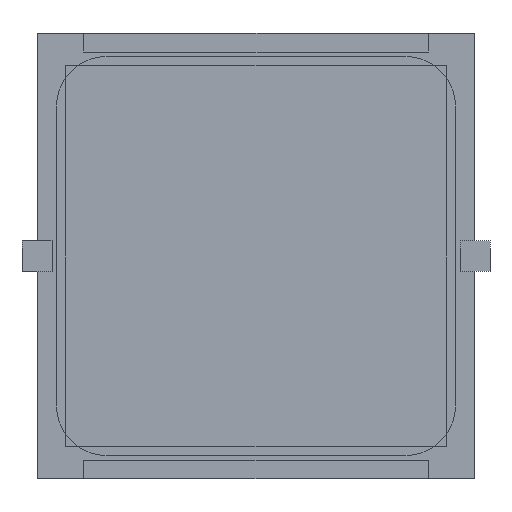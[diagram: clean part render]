
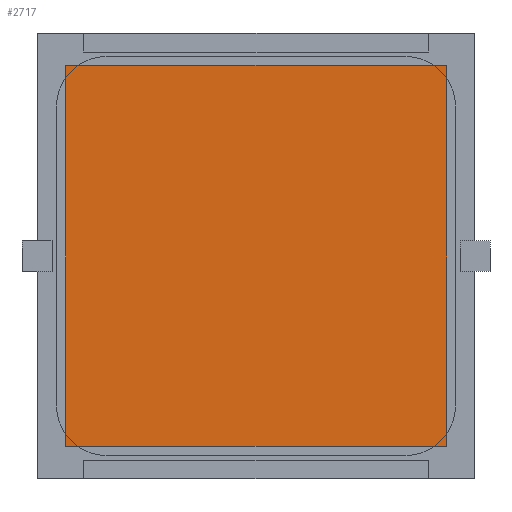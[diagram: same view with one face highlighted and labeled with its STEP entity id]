
A CAD part, front view. The second image highlights one B-rep face of the part: STEP entity #2717.
In plain terms, the highlighted planar face has unit normal (0, -1, 0).
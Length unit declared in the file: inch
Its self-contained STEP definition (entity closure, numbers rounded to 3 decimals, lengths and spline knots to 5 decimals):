
#424 = VERTEX_POINT ( 'NONE', #6770 ) ;
#426 = EDGE_CURVE ( 'NONE', #5803, #6977, #7511, .T. ) ;
#592 = EDGE_CURVE ( 'NONE', #6564, #5803, #3664, .T. ) ;
#839 = ORIENTED_EDGE ( 'NONE', *, *, #592, .F. ) ;
#1013 = ORIENTED_EDGE ( 'NONE', *, *, #3935, .F. ) ;
#1087 = VECTOR ( 'NONE', #2163, 39.37008 ) ;
#1159 = LINE ( 'NONE', #7673, #5840 ) ;
#1469 = CARTESIAN_POINT ( 'NONE',  ( -0.5, -0.005, -0.5 ) ) ;
#2163 = DIRECTION ( 'NONE',  ( 0., 0., -1. ) ) ;
#2283 = CARTESIAN_POINT ( 'NONE',  ( -0.5, -0.005, 0.5 ) ) ;
#2360 = PLANE ( 'NONE',  #3896 ) ;
#2717 = ADVANCED_FACE ( 'NONE', ( #6323 ), #2360, .F. ) ;
#2880 = DIRECTION ( 'NONE',  ( 0., 0., 1. ) ) ;
#3321 = LINE ( 'NONE', #1469, #5720 ) ;
#3562 = EDGE_CURVE ( 'NONE', #424, #6564, #1159, .T. ) ;
#3625 = CARTESIAN_POINT ( 'NONE',  ( -0.5, -0.005, 0.5 ) ) ;
#3664 = LINE ( 'NONE', #3625, #6766 ) ;
#3683 = ORIENTED_EDGE ( 'NONE', *, *, #426, .F. ) ;
#3697 = CARTESIAN_POINT ( 'NONE',  ( 0.5, -0.005, -0.5 ) ) ;
#3896 = AXIS2_PLACEMENT_3D ( 'NONE', #2283, #5161, #2880 ) ;
#3901 = EDGE_LOOP ( 'NONE', ( #6755, #1013, #3683, #839 ) ) ;
#3935 = EDGE_CURVE ( 'NONE', #6977, #424, #3321, .T. ) ;
#4015 = CARTESIAN_POINT ( 'NONE',  ( 0.5, -0.005, 0.5 ) ) ;
#5128 = CARTESIAN_POINT ( 'NONE',  ( 0.5, -0.005, -0.5 ) ) ;
#5161 = DIRECTION ( 'NONE',  ( 0., 1., 0. ) ) ;
#5437 = DIRECTION ( 'NONE',  ( 1., 0., 0. ) ) ;
#5720 = VECTOR ( 'NONE', #6192, 39.37008 ) ;
#5803 = VERTEX_POINT ( 'NONE', #4015 ) ;
#5840 = VECTOR ( 'NONE', #7443, 39.37008 ) ;
#6192 = DIRECTION ( 'NONE',  ( -1., 0., 0. ) ) ;
#6323 = FACE_OUTER_BOUND ( 'NONE', #3901, .T. ) ;
#6564 = VERTEX_POINT ( 'NONE', #6583 ) ;
#6583 = CARTESIAN_POINT ( 'NONE',  ( -0.5, -0.005, 0.5 ) ) ;
#6755 = ORIENTED_EDGE ( 'NONE', *, *, #3562, .F. ) ;
#6766 = VECTOR ( 'NONE', #5437, 39.37008 ) ;
#6770 = CARTESIAN_POINT ( 'NONE',  ( -0.5, -0.005, -0.5 ) ) ;
#6977 = VERTEX_POINT ( 'NONE', #3697 ) ;
#7443 = DIRECTION ( 'NONE',  ( 0., 0., 1. ) ) ;
#7511 = LINE ( 'NONE', #5128, #1087 ) ;
#7673 = CARTESIAN_POINT ( 'NONE',  ( -0.5, -0.005, -0.5 ) ) ;
